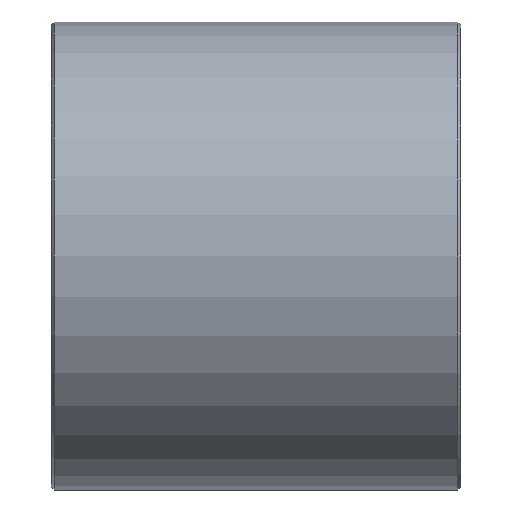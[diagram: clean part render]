
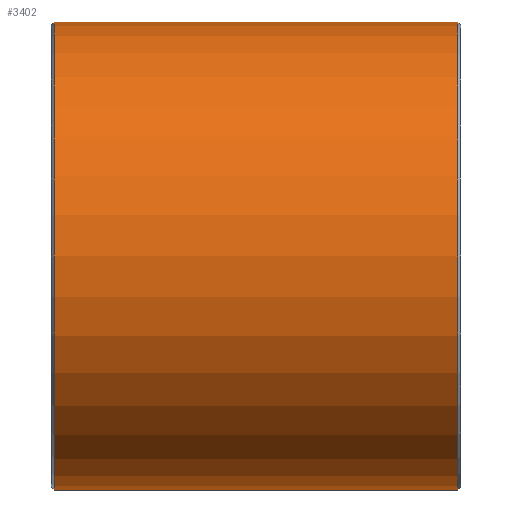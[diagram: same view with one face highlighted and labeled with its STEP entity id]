
A CAD part, front view. The second image highlights one B-rep face of the part: STEP entity #3402.
In plain terms, the highlighted cylindrical face has radius 40 mm (diameter 80 mm), a partial arc.
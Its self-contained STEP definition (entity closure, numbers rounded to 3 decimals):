
#1797=DIRECTION('',(1.,0.,0.));
#1798=VECTOR('',#1797,69.);
#1799=CARTESIAN_POINT('',(-34.5,0.,
-40.));
#1800=LINE('',#1799,#1798);
#1804=CARTESIAN_POINT('',(34.5,0.,0.));
#1805=DIRECTION('',(1.,0.,0.));
#1806=DIRECTION('',(0.,0.,1.));
#1807=AXIS2_PLACEMENT_3D('',#1804,#1805,#1806);
#1812=CARTESIAN_POINT('',(-34.5,0.,0.));
#1813=DIRECTION('',(-1.,0.,0.));
#1814=DIRECTION('',(0.,0.,-1.));
#1815=AXIS2_PLACEMENT_3D('',#1812,#1813,#1814);
#1820=DIRECTION('',(1.,0.,0.));
#1821=VECTOR('',#1820,69.);
#1822=CARTESIAN_POINT('',(-34.5,0.,
40.));
#1823=LINE('',#1822,#1821);
#2293=CARTESIAN_POINT('',(34.5,0.,40.));
#2294=CARTESIAN_POINT('',(34.5,0.,-40.));
#2295=VERTEX_POINT('',#2293);
#2296=VERTEX_POINT('',#2294);
#2301=CARTESIAN_POINT('',(-34.5,0.,-40.));
#2302=CARTESIAN_POINT('',(-34.5,0.,40.));
#2303=VERTEX_POINT('',#2301);
#2304=VERTEX_POINT('',#2302);
#3390=CARTESIAN_POINT('',(-35.,0.,0.));
#3391=DIRECTION('',(1.,0.,0.));
#3392=DIRECTION('',(0.,0.,-1.));
#3393=AXIS2_PLACEMENT_3D('',#3390,#3391,#3392);
#3394=CYLINDRICAL_SURFACE('',#3393,40.);
#3395=ORIENTED_EDGE('',*,*,#3355,.T.);
#3396=ORIENTED_EDGE('',*,*,#3385,.F.);
#3398=ORIENTED_EDGE('',*,*,#3397,.T.);
#3399=ORIENTED_EDGE('',*,*,#3381,.T.);
#3400=EDGE_LOOP('',(#3395,#3396,#3398,#3399));
#3401=FACE_OUTER_BOUND('',#3400,.F.);
#3402=ADVANCED_FACE('',(#3401),#3394,.T.);
#1808=CIRCLE('',#1807,40.);
#1816=CIRCLE('',#1815,40.);
#3355=EDGE_CURVE('',#2295,#2296,#1808,.T.);
#3381=EDGE_CURVE('',#2304,#2295,#1823,.T.);
#3385=EDGE_CURVE('',#2303,#2296,#1800,.T.);
#3397=EDGE_CURVE('',#2303,#2304,#1816,.T.);
